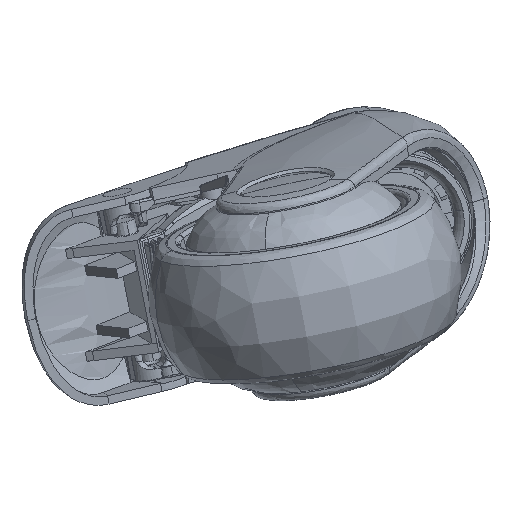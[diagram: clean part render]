
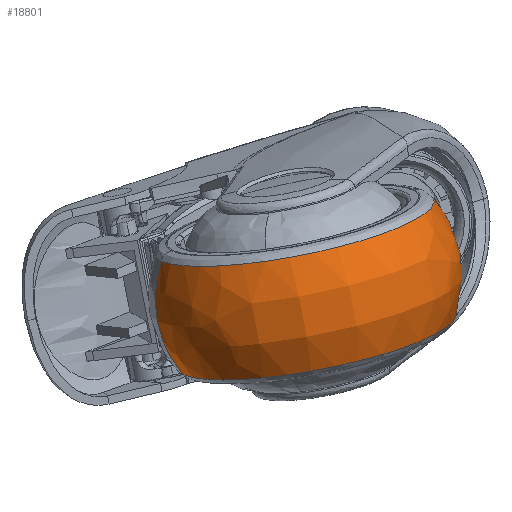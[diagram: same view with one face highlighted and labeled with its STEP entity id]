
A CAD part, front view. The second image highlights one B-rep face of the part: STEP entity #18801.
In plain terms, the highlighted free-form (B-spline) face has degree [3, 3] with [4, 4] control points.
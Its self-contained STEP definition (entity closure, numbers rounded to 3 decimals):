
#5882 = VERTEX_POINT ( 'NONE', #32031 ) ;
#7243 = CARTESIAN_POINT ( 'NONE',  ( 8.714, -87.454, 19.835 ) ) ;
#7710 = CARTESIAN_POINT ( 'NONE',  ( 8.694, -96.686, 8.663 ) ) ;
#12562 = CARTESIAN_POINT ( 'NONE',  ( -11.833, -23.849, 29.227 ) ) ;
#16699 = CARTESIAN_POINT ( 'NONE',  ( 83.233, -73.864, 17.18 ) ) ;
#18590 = CARTESIAN_POINT ( 'NONE',  ( -14.974, -23.425, 19.48 ) ) ;
#18801 = ADVANCED_FACE ( 'NONE', ( #112427 ), #134073, .T. ) ;
#29983 = DIRECTION ( 'NONE',  ( -0.934, -0.267, -0.236 ) ) ;
#30172 = EDGE_CURVE ( 'NONE', #73587, #71166, #110810, .T. ) ;
#30656 = EDGE_CURVE ( 'NONE', #5882, #47272, #91873, .T. ) ;
#31984 = CARTESIAN_POINT ( 'NONE',  ( 31.171, -9.478, 25.984 ) ) ;
#32031 = CARTESIAN_POINT ( 'NONE',  ( 51.229, -5.832, 45.178 ) ) ;
#33386 = DIRECTION ( 'NONE',  ( 0.304, -0.942, -0.139 ) ) ;
#37423 = AXIS2_PLACEMENT_3D ( 'NONE', #112409, #45919, #123763 ) ;
#39038 = CARTESIAN_POINT ( 'NONE',  ( 71.777, -69.436, 35.786 ) ) ;
#40884 = CIRCLE ( 'NONE', #124056, 28. ) ;
#45444 = AXIS2_PLACEMENT_3D ( 'NONE', #95530, #106990, #29983 ) ;
#45919 = DIRECTION ( 'NONE',  ( 0.186, 0.202, -0.962 ) ) ;
#47272 = VERTEX_POINT ( 'NONE', #12562 ) ;
#48189 = ORIENTED_EDGE ( 'NONE', *, *, #97180, .F. ) ;
#49730 = ORIENTED_EDGE ( 'NONE', *, *, #30172, .T. ) ;
#50939 = CARTESIAN_POINT ( 'NONE',  ( 51.229, -5.832, 45.178 ) ) ;
#60430 = CARTESIAN_POINT ( 'NONE',  ( 10.595, -94.617, -1.193 ) ) ;
#61364 = CARTESIAN_POINT ( 'NONE',  ( 56.424, -0.178, 18.251 ) ) ;
#69259 = EDGE_CURVE ( 'NONE', #71166, #5882, #40884, .T. ) ;
#71166 = VERTEX_POINT ( 'NONE', #105964 ) ;
#71373 = CARTESIAN_POINT ( 'NONE',  ( -11.833, -23.849, 29.227 ) ) ;
#72334 = CARTESIAN_POINT ( 'NONE',  ( -13.072, -21.355, 9.625 ) ) ;
#73587 = VERTEX_POINT ( 'NONE', #138319 ) ;
#82333 = CARTESIAN_POINT ( 'NONE',  ( 76.972, -63.782, 8.86 ) ) ;
#82339 = EDGE_LOOP ( 'NONE', ( #48189, #49730, #132086, #120413 ) ) ;
#82814 = CARTESIAN_POINT ( 'NONE',  ( 57.663, -2.672, 37.853 ) ) ;
#83697 = DIRECTION ( 'NONE',  ( -0.186, -0.202, 0.962 ) ) ;
#91873 = CIRCLE ( 'NONE', #37423, 33.749 ) ;
#93672 = CARTESIAN_POINT ( 'NONE',  ( -6.638, -18.195, 2.3 ) ) ;
#94680 = AXIS2_PLACEMENT_3D ( 'NONE', #126434, #83697, #117423 ) ;
#95530 = CARTESIAN_POINT ( 'NONE',  ( 13.42, -14.549, 21.494 ) ) ;
#97180 = EDGE_CURVE ( 'NONE', #73587, #47272, #131005, .T. ) ;
#104655 = CARTESIAN_POINT ( 'NONE',  ( 59.565, -0.602, 27.998 ) ) ;
#105964 = CARTESIAN_POINT ( 'NONE',  ( 56.424, -0.178, 18.251 ) ) ;
#106990 = DIRECTION ( 'NONE',  ( -0.304, 0.942, 0.139 ) ) ;
#110810 = CIRCLE ( 'NONE', #94680, 33.749 ) ;
#112409 = CARTESIAN_POINT ( 'NONE',  ( 19.698, -14.841, 37.202 ) ) ;
#112427 = FACE_OUTER_BOUND ( 'NONE', #82339, .T. ) ;
#115570 = CARTESIAN_POINT ( 'NONE',  ( 81.331, -75.934, 27.036 ) ) ;
#116053 = CARTESIAN_POINT ( 'NONE',  ( 13.91, -81.799, -7.091 ) ) ;
#117423 = DIRECTION ( 'NONE',  ( 0.934, 0.267, 0.236 ) ) ;
#120401 = DIRECTION ( 'NONE',  ( 0.934, 0.267, 0.236 ) ) ;
#120413 = ORIENTED_EDGE ( 'NONE', *, *, #30656, .T. ) ;
#123763 = DIRECTION ( 'NONE',  ( 0.934, 0.267, 0.236 ) ) ;
#124056 = AXIS2_PLACEMENT_3D ( 'NONE', #31984, #33386, #120401 ) ;
#126434 = CARTESIAN_POINT ( 'NONE',  ( 24.893, -9.186, 10.276 ) ) ;
#131005 = CIRCLE ( 'NONE', #45444, 28. ) ;
#132086 = ORIENTED_EDGE ( 'NONE', *, *, #69259, .T. ) ;
#134073 =( BOUNDED_SURFACE ( )  B_SPLINE_SURFACE ( 3, 3, ( 
 ( #61364, #82333, #116053, #93672 ),
 ( #104655, #16699, #60430, #72334 ),
 ( #82814, #115570, #7710, #18590 ),
 ( #50939, #39038, #7243, #71373 ) ),
 .UNSPECIFIED., .F., .F., .F. ) 
 B_SPLINE_SURFACE_WITH_KNOTS ( ( 4, 4 ),
 ( 4, 4 ),
 ( 0., 1. ),
 ( 0., 1. ),
 .UNSPECIFIED. ) 
 GEOMETRIC_REPRESENTATION_ITEM ( )  RATIONAL_B_SPLINE_SURFACE ( (
 ( 1., 0.333, 0.333, 1.),
 ( 0.911, 0.304, 0.304, 0.911),
 ( 0.911, 0.304, 0.304, 0.911),
 ( 1., 0.333, 0.333, 1.) ) ) 
 REPRESENTATION_ITEM ( '' )  SURFACE ( )  );
#138319 = CARTESIAN_POINT ( 'NONE',  ( -6.638, -18.195, 2.3 ) ) ;
